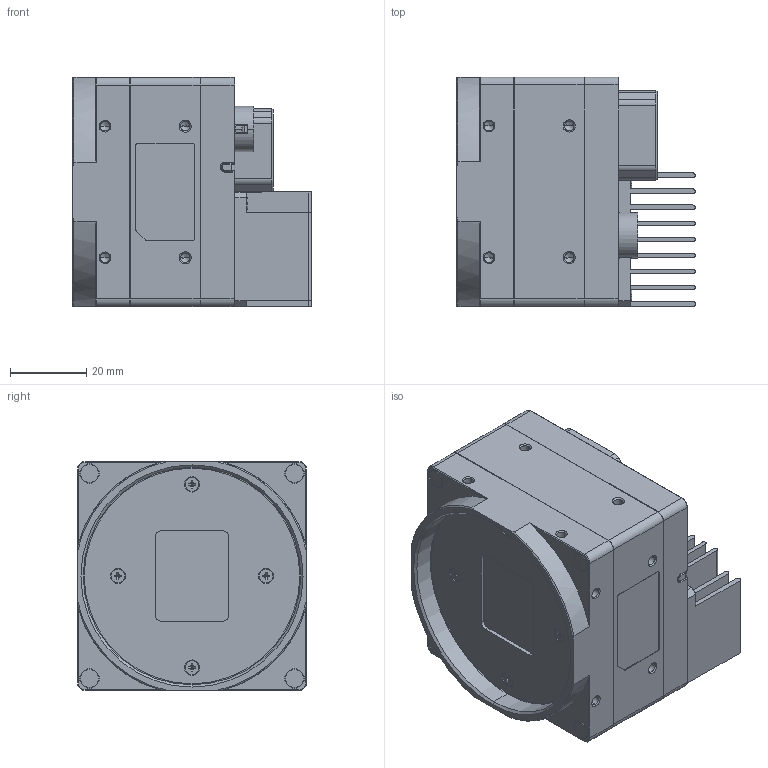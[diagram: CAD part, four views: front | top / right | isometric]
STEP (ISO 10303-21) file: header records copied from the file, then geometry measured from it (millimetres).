
FILE_DESCRIPTION((''),'2;1');
FILE_NAME('00-MV-CH240-10YM_11TM_ASM_ASM','2026-07-03T14:15:41',('wangyijun6'),(''),'CREO PARAMETRIC BY PTC INC, 2020044','CREO PARAMETRIC BY PTC INC, 2020044','');
FILE_SCHEMA(('CONFIG_CONTROL_DESIGN'));
Products named in the file (1): 00-MV-CH240-10YM_11TM_ASM_ASM
Bounding box: 62.44 x 60 x 60 mm (x, y, z)
Volume: 127474.2 mm3; surface area: 55139 mm2
Topology: 1 solids, 36 shells, 2973 faces, 7897 edges, 4958 vertices
Faces by surface type: plane 1713, cylinder 773, cone 280, bspline 98, extrusion 61, torus 38, sphere 10
Entity records: 99779 total; most frequent: CARTESIAN_POINT 26529, ORIENTED_EDGE 15498, DIRECTION 14721, EDGE_CURVE 7831, VECTOR 5247, LINE 5186, VERTEX_POINT 4960, AXIS2_PLACEMENT_3D 4737
